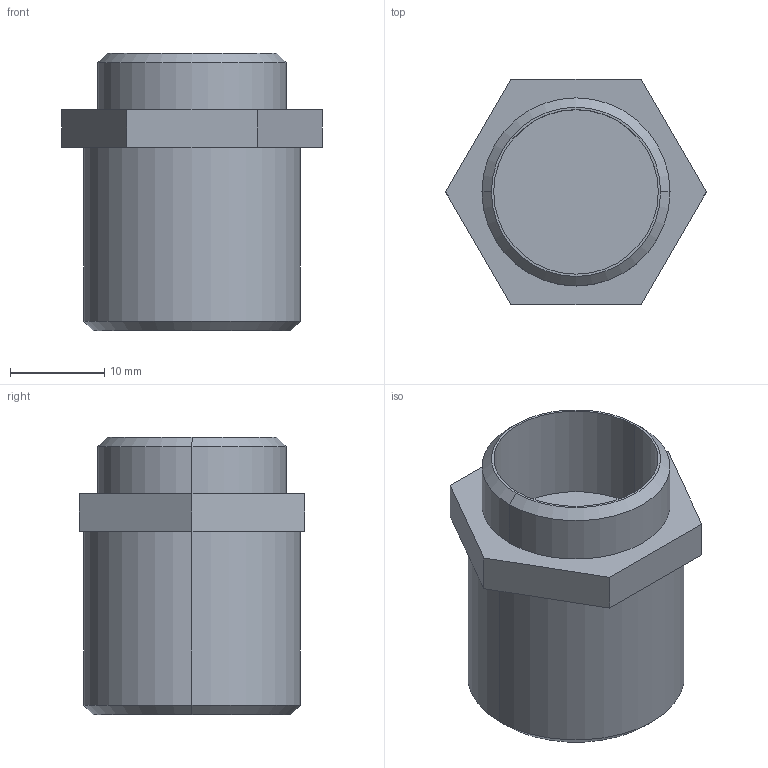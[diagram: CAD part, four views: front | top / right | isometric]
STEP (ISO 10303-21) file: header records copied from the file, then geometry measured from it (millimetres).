
FILE_DESCRIPTION (( 'STEP AP203' ), '1' );
FILE_NAME ('ZF_STEP_VF_CNM19MT_A19.STEP', '2019-04-23T09:02:22', ( 'utente' ), ( 'Microsoft' ), 'SwSTEP 2.0', 'SolidWorks 2014', '' );
FILE_SCHEMA (( 'CONFIG_CONTROL_DESIGN' ));
Length unit declared in the file: millimetre
Products named in the file (1): ZF_STEP_VF_CNM19MT_A19
Bounding box: 27.71 x 24 x 29.5 mm (x, y, z)
Volume: 6900.6 mm3; surface area: 4597 mm2
Topology: 1 solids, 1 shells, 103 faces, 284 edges, 169 vertices
Faces by surface type: cylinder 48, sphere 38, plane 13, cone 4
Entity records: 2813 total; most frequent: DIRECTION 554, CARTESIAN_POINT 443, ORIENTED_EDGE 416, AXIS2_PLACEMENT_3D 242, EDGE_CURVE 208, CIRCLE 138, VERTEX_POINT 131, EDGE_LOOP 127
